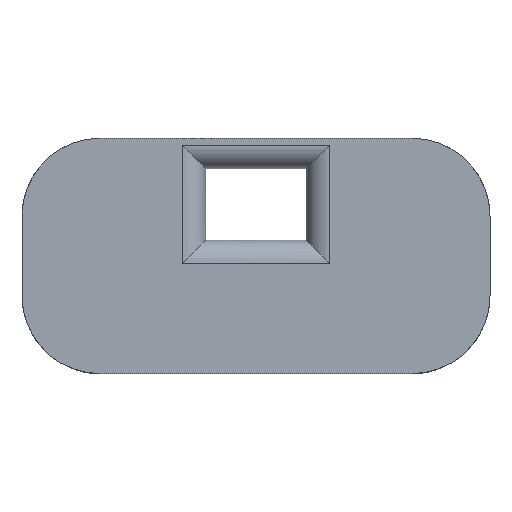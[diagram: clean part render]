
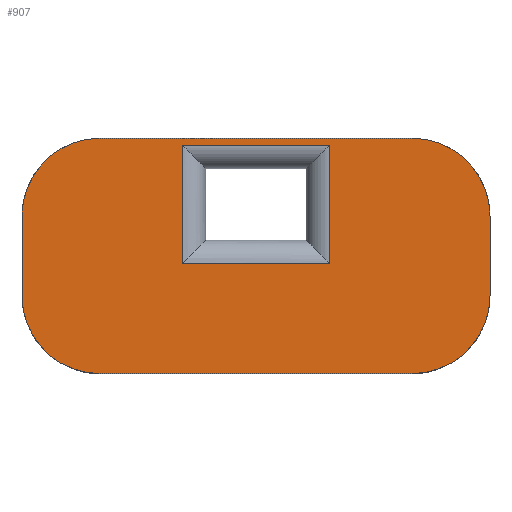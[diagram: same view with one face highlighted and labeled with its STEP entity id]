
A CAD part, top view. The second image highlights one B-rep face of the part: STEP entity #907.
In plain terms, the highlighted planar face has unit normal (0, 0, 1).
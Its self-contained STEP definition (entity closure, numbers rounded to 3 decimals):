
#15=FACE_BOUND('',#126,.T.);
#17=CIRCLE('',#974,5.);
#18=CIRCLE('',#975,5.);
#19=CIRCLE('',#976,5.);
#20=CIRCLE('',#977,5.);
#35=PLANE('',#973);
#77=FACE_OUTER_BOUND('',#125,.T.);
#125=EDGE_LOOP('',(#647,#648,#649,#650,#651,#652,#653,#654));
#126=EDGE_LOOP('',(#655,#656,#657,#658));
#173=LINE('',#1287,#287);
#176=LINE('',#1300,#290);
#177=LINE('',#1303,#291);
#179=LINE('',#1306,#293);
#186=LINE('',#1323,#300);
#187=LINE('',#1327,#301);
#188=LINE('',#1331,#302);
#189=LINE('',#1334,#303);
#287=VECTOR('',#1035,10.);
#290=VECTOR('',#1046,10.);
#291=VECTOR('',#1051,10.);
#293=VECTOR('',#1055,10.);
#300=VECTOR('',#1070,10.);
#301=VECTOR('',#1073,10.);
#302=VECTOR('',#1076,10.);
#303=VECTOR('',#1079,10.);
#401=VERTEX_POINT('',#1285);
#402=VERTEX_POINT('',#1286);
#407=VERTEX_POINT('',#1297);
#408=VERTEX_POINT('',#1299);
#412=VERTEX_POINT('',#1319);
#413=VERTEX_POINT('',#1320);
#414=VERTEX_POINT('',#1322);
#415=VERTEX_POINT('',#1324);
#416=VERTEX_POINT('',#1326);
#417=VERTEX_POINT('',#1328);
#418=VERTEX_POINT('',#1330);
#419=VERTEX_POINT('',#1332);
#489=EDGE_CURVE('',#401,#402,#173,.T.);
#495=EDGE_CURVE('',#407,#408,#176,.T.);
#497=EDGE_CURVE('',#402,#407,#177,.T.);
#499=EDGE_CURVE('',#408,#401,#179,.T.);
#506=EDGE_CURVE('',#412,#413,#17,.T.);
#507=EDGE_CURVE('',#414,#412,#186,.T.);
#508=EDGE_CURVE('',#415,#414,#18,.T.);
#509=EDGE_CURVE('',#416,#415,#187,.T.);
#510=EDGE_CURVE('',#417,#416,#19,.T.);
#511=EDGE_CURVE('',#417,#418,#188,.T.);
#512=EDGE_CURVE('',#419,#418,#20,.T.);
#513=EDGE_CURVE('',#419,#413,#189,.T.);
#647=ORIENTED_EDGE('',*,*,#506,.F.);
#648=ORIENTED_EDGE('',*,*,#507,.F.);
#649=ORIENTED_EDGE('',*,*,#508,.F.);
#650=ORIENTED_EDGE('',*,*,#509,.F.);
#651=ORIENTED_EDGE('',*,*,#510,.F.);
#652=ORIENTED_EDGE('',*,*,#511,.T.);
#653=ORIENTED_EDGE('',*,*,#512,.F.);
#654=ORIENTED_EDGE('',*,*,#513,.T.);
#655=ORIENTED_EDGE('',*,*,#495,.F.);
#656=ORIENTED_EDGE('',*,*,#497,.F.);
#657=ORIENTED_EDGE('',*,*,#489,.F.);
#658=ORIENTED_EDGE('',*,*,#499,.F.);
#907=ADVANCED_FACE('',(#77,#15),#35,.T.);
#973=AXIS2_PLACEMENT_3D('',#1318,#1066,#1067);
#974=AXIS2_PLACEMENT_3D('',#1321,#1068,#1069);
#975=AXIS2_PLACEMENT_3D('',#1325,#1071,#1072);
#976=AXIS2_PLACEMENT_3D('',#1329,#1074,#1075);
#977=AXIS2_PLACEMENT_3D('',#1333,#1077,#1078);
#1035=DIRECTION('',(0.,-1.,0.));
#1046=DIRECTION('',(0.,1.,0.));
#1051=DIRECTION('',(1.,0.,0.));
#1055=DIRECTION('',(-1.,0.,0.));
#1066=DIRECTION('center_axis',(0.,0.,1.));
#1067=DIRECTION('ref_axis',(1.,0.,0.));
#1068=DIRECTION('center_axis',(0.,0.,-1.));
#1069=DIRECTION('ref_axis',(0.707,0.707,0.));
#1070=DIRECTION('',(1.,0.,0.));
#1071=DIRECTION('center_axis',(0.,0.,-1.));
#1072=DIRECTION('ref_axis',(-0.707,0.707,0.));
#1073=DIRECTION('',(0.,1.,0.));
#1074=DIRECTION('center_axis',(0.,0.,-1.));
#1075=DIRECTION('ref_axis',(-0.707,-0.707,0.));
#1076=DIRECTION('',(1.,0.,0.));
#1077=DIRECTION('center_axis',(0.,0.,-1.));
#1078=DIRECTION('ref_axis',(0.707,-0.707,0.));
#1079=DIRECTION('',(0.,1.,0.));
#1285=CARTESIAN_POINT('',(-63.3,9.589,5.));
#1286=CARTESIAN_POINT('',(-63.3,2.,5.));
#1287=CARTESIAN_POINT('',(-63.3,4.79,5.));
#1297=CARTESIAN_POINT('',(-53.865,2.,5.));
#1299=CARTESIAN_POINT('',(-53.865,9.589,5.));
#1300=CARTESIAN_POINT('',(-53.865,2.746,5.));
#1303=CARTESIAN_POINT('',(-60.191,2.,5.));
#1306=CARTESIAN_POINT('',(-56.973,9.589,5.));
#1318=CARTESIAN_POINT('Origin',(-58.582,1.492,5.));
#1319=CARTESIAN_POINT('',(-48.582,10.037,5.));
#1320=CARTESIAN_POINT('',(-43.582,5.037,5.));
#1321=CARTESIAN_POINT('Origin',(-48.582,5.037,5.));
#1322=CARTESIAN_POINT('',(-68.582,10.037,5.));
#1323=CARTESIAN_POINT('',(-46.156,10.037,5.));
#1324=CARTESIAN_POINT('',(-73.582,5.037,5.));
#1325=CARTESIAN_POINT('Origin',(-68.582,5.037,5.));
#1326=CARTESIAN_POINT('',(-73.582,-0.053,5.));
#1327=CARTESIAN_POINT('',(-73.582,9.037,5.));
#1328=CARTESIAN_POINT('',(-68.582,-5.053,5.));
#1329=CARTESIAN_POINT('Origin',(-68.582,-0.053,5.));
#1330=CARTESIAN_POINT('',(-48.582,-5.053,5.));
#1331=CARTESIAN_POINT('',(-66.082,-5.053,5.));
#1332=CARTESIAN_POINT('',(-43.582,-0.053,5.));
#1333=CARTESIAN_POINT('Origin',(-48.582,-0.053,5.));
#1334=CARTESIAN_POINT('',(-43.582,9.037,5.));
